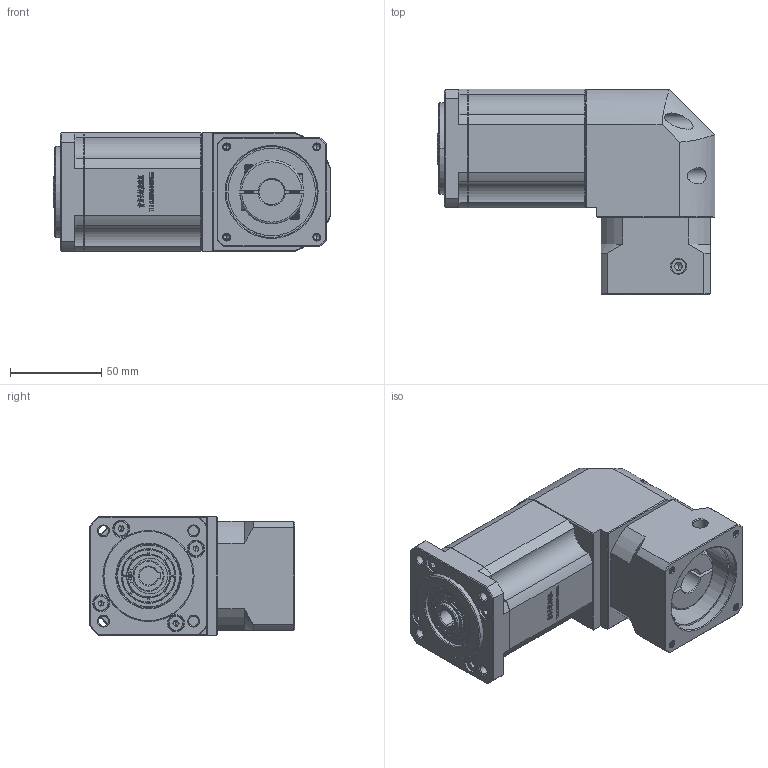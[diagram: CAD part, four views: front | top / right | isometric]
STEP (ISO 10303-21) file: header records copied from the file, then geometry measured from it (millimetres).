
FILE_DESCRIPTION (( 'STEP AP214' ), '1' );
FILE_NAME ('ZBR60-K10-L3-14-50-70-M4.STEP', '2022-04-19T08:51:15', ( '' ), ( 'Microsoft' ), 'SwSTEP 2.0', 'SolidWorks 2016', '' );
FILE_SCHEMA (( 'AUTOMOTIVE_DESIGN' ));
Length unit declared in the file: millimetre
Products named in the file (1): ZBR60-K10-L3-14-50-70-M4
Bounding box: 152.5 x 112.7 x 65 mm (x, y, z)
Volume: 639605 mm3; surface area: 84373.7 mm2
Topology: 5 solids, 5 shells, 2782 faces, 7515 edges, 4872 vertices
Faces by surface type: plane 1469, bspline 584, cylinder 385, cone 324, torus 20
Entity records: 147041 total; most frequent: CARTESIAN_POINT 50642, ORIENTED_EDGE 14974, DIRECTION 11441, EDGE_CURVE 7487, LINE 4987, VECTOR 4987, VERTEX_POINT 4872, AXIS2_PLACEMENT_3D 3227
